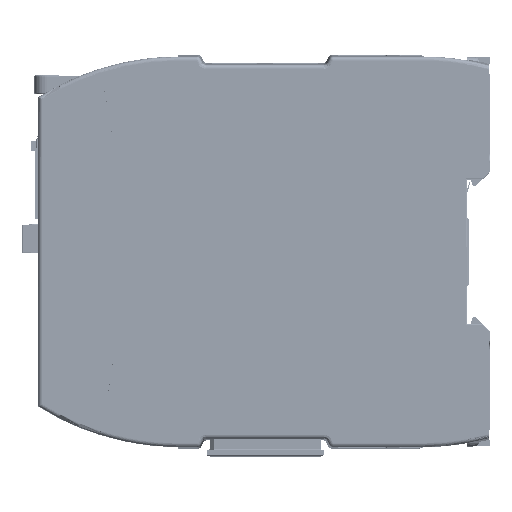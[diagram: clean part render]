
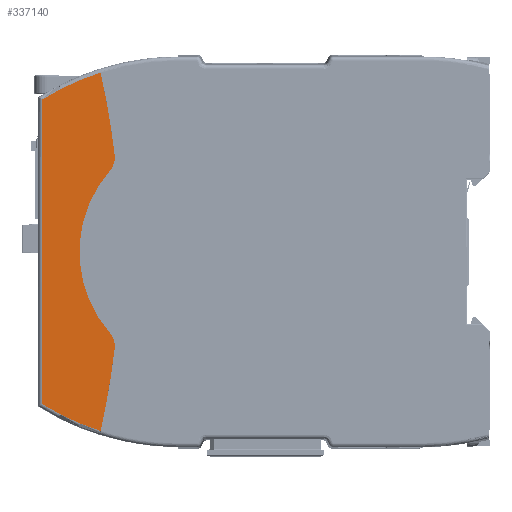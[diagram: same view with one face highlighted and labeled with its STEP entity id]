
A CAD part, left-side view. The second image highlights one B-rep face of the part: STEP entity #337140.
In plain terms, the highlighted planar face has unit normal (-1, 0, 0).
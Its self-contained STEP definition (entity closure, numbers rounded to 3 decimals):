
#48867=CARTESIAN_POINT('',(-22.5,70.01,0.));
#48868=DIRECTION('',(1.,0.,0.));
#48869=DIRECTION('',(0.,0.753,-0.658));
#48870=AXIS2_PLACEMENT_3D('',#48867,#48868,#48869);
#48875=CARTESIAN_POINT('',(-22.5,96.374,-23.021));
#48876=DIRECTION('',(-1.,0.,0.));
#48877=DIRECTION('',(0.,-0.993,-0.118));
#48878=AXIS2_PLACEMENT_3D('',#48875,#48876,#48877);
#48883=CARTESIAN_POINT('',(-22.5,290.01,0.));
#48884=DIRECTION('',(-1.,0.,0.));
#48885=DIRECTION('',(0.,-0.976,-0.218));
#48886=AXIS2_PLACEMENT_3D('',#48883,#48884,#48885);
#48891=CARTESIAN_POINT('',(-22.5,76.01,15.939));
#48892=DIRECTION('',(-1.,0.,0.));
#48893=DIRECTION('',(0.,0.528,-0.849));
#48894=AXIS2_PLACEMENT_3D('',#48891,#48892,#48893);
#48899=CARTESIAN_POINT('',(-22.5,76.01,-15.939));
#48900=DIRECTION('',(-1.,0.,0.));
#48901=DIRECTION('',(0.,0.301,0.954));
#48902=AXIS2_PLACEMENT_3D('',#48899,#48900,#48901);
#48907=CARTESIAN_POINT('',(-22.5,290.01,0.));
#48908=DIRECTION('',(-1.,0.,0.));
#48909=DIRECTION('',(0.,-0.993,0.118));
#48910=AXIS2_PLACEMENT_3D('',#48907,#48908,#48909);
#48915=CARTESIAN_POINT('',(-22.5,96.374,23.021));
#48916=DIRECTION('',(-1.,0.,0.));
#48917=DIRECTION('',(0.,-0.753,-0.658));
#48918=AXIS2_PLACEMENT_3D('',#48915,#48916,#48917);
#48923=CARTESIAN_POINT('',(-22.5,109.01,-37.185));
#48951=DIRECTION('',(0.,0.,1.));
#48952=VECTOR('',#48951,74.369);
#48953=CARTESIAN_POINT('',(-22.5,109.01,-37.185));
#48954=LINE('',#48953,#48952);
#48966=CARTESIAN_POINT('',(-22.5,109.01,37.185));
#244914=CARTESIAN_POINT('',(-22.5,91.409,-23.611));
#244915=VERTEX_POINT('',#244914);
#244949=CARTESIAN_POINT('',(-22.5,92.607,19.732));
#244950=VERTEX_POINT('',#244949);
#244959=CARTESIAN_POINT('',(-22.5,94.842,-43.697));
#244960=VERTEX_POINT('',#244959);
#244963=CARTESIAN_POINT('',(-22.5,92.607,-19.732));
#244964=VERTEX_POINT('',#244963);
#244965=CARTESIAN_POINT('',(-22.5,91.409,23.611));
#244966=VERTEX_POINT('',#244965);
#245012=CARTESIAN_POINT('',(-22.5,94.842,43.697));
#245013=VERTEX_POINT('',#245012);
#245049=VERTEX_POINT('',#48923);
#245094=VERTEX_POINT('',#48966);
#337122=CARTESIAN_POINT('',(-22.5,0.01,0.));
#337123=DIRECTION('',(-1.,0.,0.));
#337124=DIRECTION('',(0.,0.,1.));
#337125=AXIS2_PLACEMENT_3D('',#337122,#337123,#337124);
#337126=PLANE('',#337125);
#337127=ORIENTED_EDGE('',*,*,#337090,.F.);
#337128=ORIENTED_EDGE('',*,*,#337069,.F.);
#337129=ORIENTED_EDGE('',*,*,#336884,.F.);
#337131=ORIENTED_EDGE('',*,*,#337130,.F.);
#337133=ORIENTED_EDGE('',*,*,#337132,.T.);
#337135=ORIENTED_EDGE('',*,*,#337134,.F.);
#337136=ORIENTED_EDGE('',*,*,#334074,.F.);
#337137=ORIENTED_EDGE('',*,*,#337110,.F.);
#337138=EDGE_LOOP('',(#337127,#337128,#337129,#337131,#337133,#337135,#337136,
#337137));
#337139=FACE_OUTER_BOUND('',#337138,.F.);
#48871=CIRCLE('',#48870,30.);
#48879=CIRCLE('',#48878,5.);
#48887=CIRCLE('',#48886,200.);
#48895=CIRCLE('',#48894,62.539);
#48903=CIRCLE('',#48902,62.539);
#48911=CIRCLE('',#48910,200.);
#48919=CIRCLE('',#48918,5.);
#334074=EDGE_CURVE('',#244966,#245013,#48911,.T.);
#336884=EDGE_CURVE('',#244960,#244915,#48887,.T.);
#337069=EDGE_CURVE('',#244915,#244964,#48879,.T.);
#337090=EDGE_CURVE('',#244964,#244950,#48871,.T.);
#337110=EDGE_CURVE('',#244950,#244966,#48919,.T.);
#337130=EDGE_CURVE('',#245049,#244960,#48895,.T.);
#337132=EDGE_CURVE('',#245049,#245094,#48954,.T.);
#337134=EDGE_CURVE('',#245013,#245094,#48903,.T.);
#337140=ADVANCED_FACE('',(#337139),#337126,.T.);
